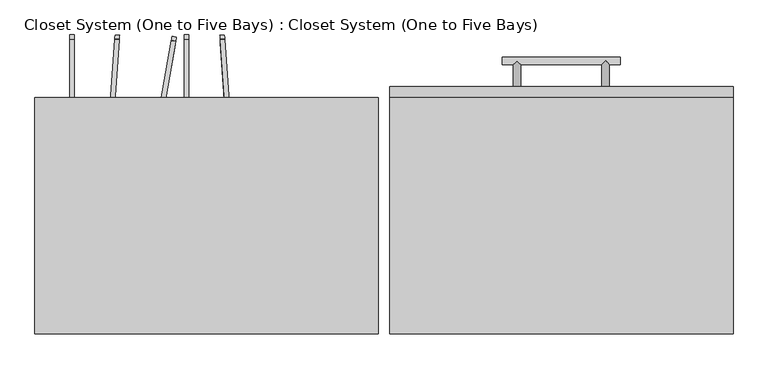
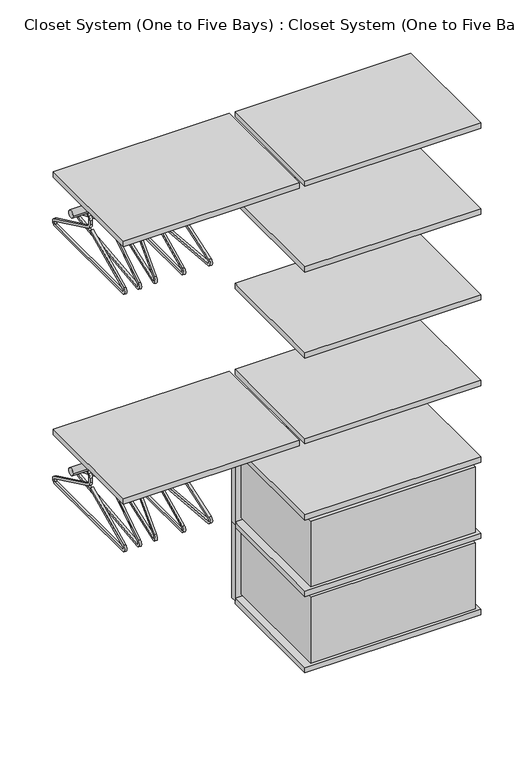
"""IFC4 building model written with IfcOpenShell, lengths in millimetres: furniture geometry, Closet System (One to Five Bays) : Closet System (One to Five Bays)."""

from ifc_helpers import new_model, si_unit, point, frame, frame_2d, origin, place, context, project, spatial, polyline, circle_curve, ellipse_curve, trimmed, segment, composite_curve, outline, extrude, faceted_brep, source, transform, mapped, element, save
from ifc_brep_helpers import plane_surface, cylinder_surface, advanced_brep


def closet_system_one_to_five_bays_closet_system_one_to_five_bbc15d21(model_context):
    return source(origin(), model_context, "Body", "SolidModel", [
        advanced_brep(
        [(1006.475, 425.45, 498.475), (993.775, 425.45, 498.475), (1006.475, 463.55, 498.475), (1000.125, 469.9, 504.825), (993.775, 463.55, 498.475), (1000.125, 469.9, 492.125), (1025.525, 463.55, 498.475), (1025.525, 476.25, 498.475), (822.325, 463.55, 498.475), (822.325, 476.25, 498.475), (841.375, 463.55, 498.475), (847.725, 469.9, 504.825), (854.075, 463.55, 498.475), (847.725, 469.9, 492.125), (841.375, 425.45, 498.475), (854.075, 425.45, 498.475)],
        [
            (0, 1, circle_curve(frame((1000.125, 425.45, 498.475), z_axis=(0.0, -1.0, 0.0), x_axis=(-1.0, 0.0, 0.0)), 6.35)),
            (1, 0, circle_curve(frame((1000.125, 425.45, 498.475), z_axis=(0.0, -1.0, 0.0), x_axis=(-1.0, 0.0, 0.0)), 6.35)),
            (0, 2),
            (2, 3, ellipse_curve(frame((1000.125, 469.9, 498.475), z_axis=(-0.7071067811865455, -0.7071067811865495, 0.0), x_axis=(-0.7071067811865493, 0.7071067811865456, 0.0)), 8.9802561, 6.35)),
            (3, 4, ellipse_curve(frame((1000.125, 469.9, 498.475), z_axis=(0.7071067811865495, -0.7071067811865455, 0.0), x_axis=(0.7071067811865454, 0.7071067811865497, 0.0)), 8.9802561, 6.35)),
            (4, 1),
            (4, 5, ellipse_curve(frame((1000.125, 469.9, 498.475), z_axis=(0.7071067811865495, -0.7071067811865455, 0.0), x_axis=(0.7071067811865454, 0.7071067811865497, 0.0)), 8.9802561, 6.35)),
            (5, 2, ellipse_curve(frame((1000.125, 469.9, 498.475), z_axis=(-0.7071067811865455, -0.7071067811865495, 0.0), x_axis=(-0.7071067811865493, 0.7071067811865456, 0.0)), 8.9802561, 6.35)),
            (6, 7, circle_curve(frame((1025.525, 469.9, 498.475), z_axis=(1.0, 0.0, 0.0), x_axis=(0.0, 1.0, 0.0)), 6.35)),
            (7, 6, circle_curve(frame((1025.525, 469.9, 498.475), z_axis=(1.0, 0.0, 0.0), x_axis=(0.0, 1.0, 0.0)), 6.35)),
            (8, 9, circle_curve(frame((822.325, 469.9, 498.475), z_axis=(-1.0, 0.0, 0.0), x_axis=(0.0, 1.0, 0.0)), 6.35)),
            (9, 8, circle_curve(frame((822.325, 469.9, 498.475), z_axis=(-1.0, 0.0, 0.0), x_axis=(0.0, 1.0, 0.0)), 6.35)),
            (7, 9),
            (8, 10),
            (10, 11, ellipse_curve(frame((847.725, 469.9, 498.475), z_axis=(-0.7071067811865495, 0.7071067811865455, 0.0), x_axis=(0.7071067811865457, 0.7071067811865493, 0.0)), 8.9802561, 6.35)),
            (11, 12, ellipse_curve(frame((847.725, 469.9, 498.475), z_axis=(0.7071067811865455, 0.7071067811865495, 0.0), x_axis=(0.7071067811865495, -0.7071067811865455, 0.0)), 8.9802561, 6.35)),
            (12, 4),
            (2, 6),
            (12, 13, ellipse_curve(frame((847.725, 469.9, 498.475), z_axis=(0.7071067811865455, 0.7071067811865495, 0.0), x_axis=(0.7071067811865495, -0.7071067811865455, 0.0)), 8.9802561, 6.35)),
            (13, 10, ellipse_curve(frame((847.725, 469.9, 498.475), z_axis=(-0.7071067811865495, 0.7071067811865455, 0.0), x_axis=(0.7071067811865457, 0.7071067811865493, 0.0)), 8.9802561, 6.35)),
            (14, 15, circle_curve(frame((847.725, 425.45, 498.475), z_axis=(0.0, -1.0, 0.0), x_axis=(1.0, 0.0, 0.0)), 6.35)),
            (15, 14, circle_curve(frame((847.725, 425.45, 498.475), z_axis=(0.0, -1.0, 0.0), x_axis=(1.0, 0.0, 0.0)), 6.35)),
            (15, 12),
            (10, 14),
        ],
        [
            plane_surface(frame((1000.125, 425.45, 498.475), z_axis=(0.0, -1.0, 0.0), x_axis=(0.0, 0.0, 1.0))),
            cylinder_surface(frame((1000.125, 469.9, 498.475), z_axis=(0.0, 1.0, 0.0), x_axis=(-1.0, 0.0, 0.0)), 6.35),
            plane_surface(frame((1025.525, 469.9, 498.475), z_axis=(1.0, 0.0, 0.0), x_axis=(0.0, 0.0, 1.0))),
            plane_surface(frame((822.325, 469.9, 498.475), z_axis=(-1.0, 0.0, 0.0), x_axis=(0.0, 0.0, 1.0))),
            cylinder_surface(frame((1025.525, 469.9, 498.475), z_axis=(1.0, 0.0, 0.0), x_axis=(0.0, 1.0, 0.0)), 6.35),
            plane_surface(frame((847.725, 425.45, 498.475), z_axis=(0.0, -1.0, 0.0), x_axis=(0.0, 0.0, 1.0))),
            cylinder_surface(frame((847.725, 469.9, 498.475), z_axis=(0.0, 1.0, 0.0), x_axis=(1.0, 0.0, 0.0)), 6.35),
        ],
        [
            (0, [[1, 2]]),
            (1, [[3, 4, 5, 6, -1]]),
            (1, [[-6, 7, 8, -3, -2]]),
            (2, [[9, 10]]),
            (3, [[11, 12]]),
            (4, [[13, -11, 14, 15, 16, 17, -5, -4, 18, -10]]),
            (4, [[-18, -8, -7, -17, 19, 20, -14, -12, -13, -9]]),
            (5, [[21, 22]]),
            (6, [[23, -16, -15, 24, -22]]),
            (6, [[-24, -20, -19, -23, -21]]),
        ],
    ),
        extrude(outline(polyline([(1219.2, 425.45), (1219.2, 406.4), (628.65, 406.4), (628.65, 425.45), (1219.2, 425.45)])), frame((0.0, 0.0, 363.0083333), z_axis=(0.0, 0.0, 1.0), x_axis=(1.0, 0.0, 0.0)), (0.0, 0.0, 1.0), 270.9333333),
        faceted_brep([(1200.15, 0.0, 614.8916667), (1200.15, 406.4, 614.8916667), (647.7, 406.4, 614.8916667), (647.7, 0.0, 614.8916667), (1181.1, 19.05, 614.8916667), (666.75, 19.05, 614.8916667), (666.75, 387.35, 614.8916667), (1181.1, 387.35, 614.8916667), (1200.15, 0.0, 382.0583333), (647.7, 0.0, 382.0583333), (647.7, 406.4, 382.0583333), (1200.15, 406.4, 382.0583333), (1181.1, 387.35, 391.5833333), (1181.1, 19.05, 391.5833333), (666.75, 387.35, 391.5833333), (666.75, 19.05, 391.5833333)], [[[0, 1, 2, 3], [4, 5, 6, 7]], [[8, 9, 10, 11]], [[3, 9, 8, 0]], [[2, 10, 9, 3]], [[1, 11, 10, 2]], [[0, 8, 11, 1]], [[7, 12, 13, 4]], [[6, 14, 12, 7]], [[5, 15, 14, 6]], [[4, 13, 15, 5]], [[12, 14, 15, 13]]]),
        advanced_brep(
        [(1006.475, 425.45, 227.5416667), (993.775, 425.45, 227.5416667), (1006.475, 463.55, 227.5416667), (1000.125, 469.9, 233.8916667), (993.775, 463.55, 227.5416667), (1000.125, 469.9, 221.1916667), (1025.525, 463.55, 227.5416667), (1025.525, 476.25, 227.5416667), (822.325, 463.55, 227.5416667), (822.325, 476.25, 227.5416667), (841.375, 463.55, 227.5416667), (847.725, 469.9, 233.8916667), (854.075, 463.55, 227.5416667), (847.725, 469.9, 221.1916667), (841.375, 425.45, 227.5416667), (854.075, 425.45, 227.5416667)],
        [
            (0, 1, circle_curve(frame((1000.125, 425.45, 227.5416667), z_axis=(0.0, -1.0, 0.0), x_axis=(-1.0, 0.0, 0.0)), 6.35)),
            (1, 0, circle_curve(frame((1000.125, 425.45, 227.5416667), z_axis=(0.0, -1.0, 0.0), x_axis=(-1.0, 0.0, 0.0)), 6.35)),
            (0, 2),
            (2, 3, ellipse_curve(frame((1000.125, 469.9, 227.5416667), z_axis=(-0.7071067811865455, -0.7071067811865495, 0.0), x_axis=(-0.7071067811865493, 0.7071067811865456, 0.0)), 8.9802561, 6.35)),
            (3, 4, ellipse_curve(frame((1000.125, 469.9, 227.5416667), z_axis=(0.7071067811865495, -0.7071067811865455, 0.0), x_axis=(0.7071067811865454, 0.7071067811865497, 0.0)), 8.9802561, 6.35)),
            (4, 1),
            (4, 5, ellipse_curve(frame((1000.125, 469.9, 227.5416667), z_axis=(0.7071067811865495, -0.7071067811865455, 0.0), x_axis=(0.7071067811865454, 0.7071067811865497, 0.0)), 8.9802561, 6.35)),
            (5, 2, ellipse_curve(frame((1000.125, 469.9, 227.5416667), z_axis=(-0.7071067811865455, -0.7071067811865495, 0.0), x_axis=(-0.7071067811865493, 0.7071067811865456, 0.0)), 8.9802561, 6.35)),
            (6, 7, circle_curve(frame((1025.525, 469.9, 227.5416667), z_axis=(1.0, 0.0, 0.0), x_axis=(0.0, 1.0, 0.0)), 6.35)),
            (7, 6, circle_curve(frame((1025.525, 469.9, 227.5416667), z_axis=(1.0, 0.0, 0.0), x_axis=(0.0, 1.0, 0.0)), 6.35)),
            (8, 9, circle_curve(frame((822.325, 469.9, 227.5416667), z_axis=(-1.0, 0.0, 0.0), x_axis=(0.0, 1.0, 0.0)), 6.35)),
            (9, 8, circle_curve(frame((822.325, 469.9, 227.5416667), z_axis=(-1.0, 0.0, 0.0), x_axis=(0.0, 1.0, 0.0)), 6.35)),
            (7, 9),
            (8, 10),
            (10, 11, ellipse_curve(frame((847.725, 469.9, 227.5416667), z_axis=(-0.7071067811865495, 0.7071067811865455, 0.0), x_axis=(0.7071067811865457, 0.7071067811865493, 0.0)), 8.9802561, 6.35)),
            (11, 12, ellipse_curve(frame((847.725, 469.9, 227.5416667), z_axis=(0.7071067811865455, 0.7071067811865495, 0.0), x_axis=(0.7071067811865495, -0.7071067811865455, 0.0)), 8.9802561, 6.35)),
            (12, 4),
            (2, 6),
            (12, 13, ellipse_curve(frame((847.725, 469.9, 227.5416667), z_axis=(0.7071067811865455, 0.7071067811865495, 0.0), x_axis=(0.7071067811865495, -0.7071067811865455, 0.0)), 8.9802561, 6.35)),
            (13, 10, ellipse_curve(frame((847.725, 469.9, 227.5416667), z_axis=(-0.7071067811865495, 0.7071067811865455, 0.0), x_axis=(0.7071067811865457, 0.7071067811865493, 0.0)), 8.9802561, 6.35)),
            (14, 15, circle_curve(frame((847.725, 425.45, 227.5416667), z_axis=(0.0, -1.0, 0.0), x_axis=(1.0, 0.0, 0.0)), 6.35)),
            (15, 14, circle_curve(frame((847.725, 425.45, 227.5416667), z_axis=(0.0, -1.0, 0.0), x_axis=(1.0, 0.0, 0.0)), 6.35)),
            (15, 12),
            (10, 14),
        ],
        [
            plane_surface(frame((1000.125, 425.45, 227.5416667), z_axis=(0.0, -1.0, 0.0), x_axis=(0.0, 0.0, 1.0))),
            cylinder_surface(frame((1000.125, 469.9, 227.5416667), z_axis=(0.0, 1.0, 0.0), x_axis=(-1.0, 0.0, 0.0)), 6.35),
            plane_surface(frame((1025.525, 469.9, 227.5416667), z_axis=(1.0, 0.0, 0.0), x_axis=(0.0, 0.0, 1.0))),
            plane_surface(frame((822.325, 469.9, 227.5416667), z_axis=(-1.0, 0.0, 0.0), x_axis=(0.0, 0.0, 1.0))),
            cylinder_surface(frame((1025.525, 469.9, 227.5416667), z_axis=(1.0, 0.0, 0.0), x_axis=(0.0, 1.0, 0.0)), 6.35),
            plane_surface(frame((847.725, 425.45, 227.5416667), z_axis=(0.0, -1.0, 0.0), x_axis=(0.0, 0.0, 1.0))),
            cylinder_surface(frame((847.725, 469.9, 227.5416667), z_axis=(0.0, 1.0, 0.0), x_axis=(1.0, 0.0, 0.0)), 6.35),
        ],
        [
            (0, [[1, 2]]),
            (1, [[3, 4, 5, 6, -1]]),
            (1, [[-6, 7, 8, -3, -2]]),
            (2, [[9, 10]]),
            (3, [[11, 12]]),
            (4, [[13, -11, 14, 15, 16, 17, -5, -4, 18, -10]]),
            (4, [[-18, -8, -7, -17, 19, 20, -14, -12, -13, -9]]),
            (5, [[21, 22]]),
            (6, [[23, -16, -15, 24, -22]]),
            (6, [[-24, -20, -19, -23, -21]]),
        ],
    ),
        extrude(outline(polyline([(1219.2, 425.45), (1219.2, 406.4), (628.65, 406.4), (628.65, 425.45), (1219.2, 425.45)])), frame((0.0, 0.0, 92.075), z_axis=(0.0, 0.0, 1.0), x_axis=(1.0, 0.0, 0.0)), (0.0, 0.0, 1.0), 270.9333333),
        faceted_brep([(1200.15, 0.0, 343.9583333), (1200.15, 406.4, 343.9583333), (647.7, 406.4, 343.9583333), (647.7, 0.0, 343.9583333), (1181.1, 19.05, 343.9583333), (666.75, 19.05, 343.9583333), (666.75, 387.35, 343.9583333), (1181.1, 387.35, 343.9583333), (1200.15, 0.0, 111.125), (647.7, 0.0, 111.125), (647.7, 406.4, 111.125), (1200.15, 406.4, 111.125), (1181.1, 387.35, 120.65), (1181.1, 19.05, 120.65), (666.75, 387.35, 120.65), (666.75, 19.05, 120.65)], [[[0, 1, 2, 3], [4, 5, 6, 7]], [[8, 9, 10, 11]], [[3, 9, 8, 0]], [[2, 10, 9, 3]], [[1, 11, 10, 2]], [[0, 8, 11, 1]], [[7, 12, 13, 4]], [[6, 14, 12, 7]], [[5, 15, 14, 6]], [[4, 13, 15, 5]], [[12, 14, 15, 13]]]),
        faceted_brep([(628.65, 406.4, 1200.15), (628.65, 387.35, 1200.15), (628.65, 0.0, 1200.15), (628.65, 0.0, 1219.2), (628.65, 387.35, 1219.2), (628.65, 406.4, 1219.2), (1219.2, 0.0, 1200.15), (1219.2, 387.35, 1200.15), (1219.2, 406.4, 1200.15), (1219.2, 406.4, 1219.2), (1219.2, 387.35, 1219.2), (1219.2, 0.0, 1219.2)], [[[0, 1, 2, 3, 4, 5]], [[6, 7, 8, 9, 10, 11]], [[2, 1, 0, 8, 7, 6]], [[5, 9, 8, 0]], [[5, 4, 3, 11, 10, 9]], [[2, 6, 11, 3]]]),
        faceted_brep([(628.65, 406.4, 1504.95), (628.65, 387.35, 1504.95), (628.65, 0.0, 1504.95), (628.65, 0.0, 1524.0), (628.65, 387.35, 1524.0), (628.65, 406.4, 1524.0), (1219.2, 0.0, 1504.95), (1219.2, 387.35, 1504.95), (1219.2, 406.4, 1504.95), (1219.2, 406.4, 1524.0), (1219.2, 387.35, 1524.0), (1219.2, 0.0, 1524.0)], [[[0, 1, 2, 3, 4, 5]], [[6, 7, 8, 9, 10, 11]], [[2, 1, 0, 8, 7, 6]], [[5, 9, 8, 0]], [[5, 4, 3, 11, 10, 9]], [[2, 6, 11, 3]]]),
        faceted_brep([(628.65, 406.4, 624.4166667), (628.65, 387.35, 624.4166667), (628.65, 0.0, 624.4166667), (628.65, 0.0, 643.4666667), (628.65, 387.35, 643.4666667), (628.65, 406.4, 643.4666667), (1219.2, 0.0, 624.4166667), (1219.2, 387.35, 624.4166667), (1219.2, 406.4, 624.4166667), (1219.2, 406.4, 643.4666667), (1219.2, 387.35, 643.4666667), (1219.2, 0.0, 643.4666667)], [[[0, 1, 2, 3, 4, 5]], [[6, 7, 8, 9, 10, 11]], [[2, 1, 0, 8, 7, 6]], [[5, 9, 8, 0]], [[5, 4, 3, 11, 10, 9]], [[2, 6, 11, 3]]]),
        faceted_brep([(628.65, 406.4, 353.4833333), (628.65, 387.35, 353.4833333), (628.65, 0.0, 353.4833333), (628.65, 0.0, 372.5333333), (628.65, 387.35, 372.5333333), (628.65, 406.4, 372.5333333), (1219.2, 0.0, 353.4833333), (1219.2, 387.35, 353.4833333), (1219.2, 406.4, 353.4833333), (1219.2, 406.4, 372.5333333), (1219.2, 387.35, 372.5333333), (1219.2, 0.0, 372.5333333)], [[[0, 1, 2, 3, 4, 5]], [[6, 7, 8, 9, 10, 11]], [[2, 1, 0, 8, 7, 6]], [[5, 9, 8, 0]], [[5, 4, 3, 11, 10, 9]], [[2, 6, 11, 3]]]),
        faceted_brep([(628.65, 406.4, 82.55), (628.65, 387.35, 82.55), (628.65, 0.0, 82.55), (628.65, 0.0, 101.6), (628.65, 387.35, 101.6), (628.65, 406.4, 101.6), (1219.2, 0.0, 82.55), (1219.2, 387.35, 82.55), (1219.2, 406.4, 82.55), (1219.2, 406.4, 101.6), (1219.2, 387.35, 101.6), (1219.2, 0.0, 101.6)], [[[0, 1, 2, 3, 4, 5]], [[6, 7, 8, 9, 10, 11]], [[2, 1, 0, 8, 7, 6]], [[5, 9, 8, 0]], [[5, 4, 3, 11, 10, 9]], [[2, 6, 11, 3]]]),
        extrude(outline(polyline([(1219.2, 406.4), (1219.2, 0.0), (628.65, 0.0), (628.65, 406.4), (1219.2, 406.4)])), frame((0.0, 0.0, 895.35), z_axis=(0.0, 0.0, 1.0), x_axis=(1.0, 0.0, 0.0)), (0.0, 0.0, 1.0), 19.05),
        extrude(outline(polyline([(1219.2, 406.4), (1219.2, 0.0), (628.65, 0.0), (628.65, 406.4), (1219.2, 406.4)])), frame((0.0, 0.0, 1809.75), z_axis=(0.0, 0.0, 1.0), x_axis=(1.0, 0.0, 0.0)), (0.0, 0.0, 1.0), 19.05),
        extrude(outline(composite_curve([segment(polyline([(0.0, 7.62), (209.55, 7.62)]), True, "CONTINUOUS"), segment(trimmed(circle_curve(frame_2d((209.55, -5.08)), 12.7), [point((209.55, 7.62))], [point((215.0168758, -16.5431265))], False, "CARTESIAN"), True, "CONTINUOUS"), segment(polyline([(215.0168758, -16.5431265), (-140.3400452, -186.0162767)]), True, "CONTINUOUS"), segment(trimmed(circle_curve(frame_2d((-145.806921, -174.5531502)), 12.7), [point((-140.3400452, -186.0162767))], [point((-155.675817, -166.559722))], False, "CARTESIAN"), True, "CONTINUOUS"), segment(polyline([(-155.675817, -166.559722), (-19.6406824, 1.3928203)]), True, "CONTINUOUS"), segment(trimmed(circle_curve(frame_2d((-29.5095783, 9.3862485)), 12.7), [point((-19.6406824, 1.3928203))], [point((-18.0464518, 14.8531243))], True, "CARTESIAN"), True, "CONTINUOUS"), segment(polyline([(-18.0464518, 14.8531243), (-24.2041701, 27.7648322)]), True, "CONTINUOUS"), segment(trimmed(circle_curve(frame_2d((-35.6672966, 22.2979563)), 12.7), [point((-24.2041701, 27.7648322))], [point((-31.4273071, 34.2692757))], True, "CARTESIAN"), True, "CONTINUOUS"), segment(polyline([(-31.4273071, 34.2692757), (-50.411263, 40.9929937)]), True, "CONTINUOUS"), segment(trimmed(circle_curve(frame_2d((-41.931284, 64.9356325)), 25.4), [point((-50.411263, 40.9929937))], [point((-19.005031, 75.8693841))], False, "CARTESIAN"), True, "CONTINUOUS"), segment(polyline([(-19.005031, 75.8693841), (-25.882907, 72.5892586)]), True, "CONTINUOUS"), segment(trimmed(circle_curve(frame_2d((-41.931284, 64.9356325)), 17.78), [point((-25.882907, 72.5892586))], [point((-47.8672693, 48.1757852))], True, "CARTESIAN"), True, "CONTINUOUS"), segment(polyline([(-47.8672693, 48.1757852), (-28.8833133, 41.4520674)]), True, "CONTINUOUS"), segment(trimmed(circle_curve(frame_2d((-35.6672966, 22.2979563)), 20.32), [point((-28.8833133, 41.4520674))], [point((-17.3262942, 31.0449576))], False, "CARTESIAN"), True, "CONTINUOUS"), segment(polyline([(-17.3262942, 31.0449576), (-11.1685759, 18.1332497)]), True, "CONTINUOUS"), segment(trimmed(circle_curve(frame_2d((-29.5095783, 9.3862485)), 20.32), [point((-11.1685759, 18.1332497))], [point((-13.7193449, -3.4032366))], False, "CARTESIAN"), True, "CONTINUOUS"), segment(polyline([(-13.7193449, -3.4032366), (-149.7544794, -171.3557789)]), True, "CONTINUOUS"), segment(trimmed(circle_curve(frame_2d((-145.806921, -174.5531502)), 5.08), [point((-149.7544794, -171.3557789))], [point((-143.6201707, -179.1384008))], True, "CARTESIAN"), True, "CONTINUOUS"), segment(polyline([(-143.6201707, -179.1384008), (211.7367503, -9.6652506)]), True, "CONTINUOUS"), segment(trimmed(circle_curve(frame_2d((209.55, -5.08)), 5.08), [point((211.7367503, -9.6652506))], [point((209.55, 0.0))], True, "CARTESIAN"), True, "CONTINUOUS"), segment(polyline([(209.55, 0.0), (0.0, 0.0), (0.0, 7.62)]), True, "CONTINUOUS")], self_intersect=False)), frame((224.2838405, 294.3935669, 1663.2387015), z_axis=(-0.9848077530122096, 0.17364817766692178, 0.0), x_axis=(-0.15673630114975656, -0.8888957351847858, -0.4304626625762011)), (0.0, 0.0, 1.0), 7.62),
        extrude(outline(composite_curve([segment(polyline([(1e-07, 7.62), (209.55, 7.6199999)]), True, "CONTINUOUS"), segment(trimmed(circle_curve(frame_2d((209.55, 12.6999999)), 5.08), [point((209.55, 7.6199999))], [point((211.7367504, 17.2852505))], True, "CARTESIAN"), True, "CONTINUOUS"), segment(polyline([(211.7367504, 17.2852505), (-143.6201707, 186.7584008)]), True, "CONTINUOUS"), segment(trimmed(circle_curve(frame_2d((-145.806921, 182.1731502)), 5.08), [point((-143.6201707, 186.7584008))], [point((-149.7544794, 178.9757789))], True, "CARTESIAN"), True, "CONTINUOUS"), segment(polyline([(-149.7544794, 178.9757789), (-13.7193448, 11.0232366)]), True, "CONTINUOUS"), segment(trimmed(circle_curve(frame_2d((-29.5095783, -1.7662484)), 20.32), [point((-13.7193448, 11.0232366))], [point((-11.1685759, -10.5132497))], False, "CARTESIAN"), True, "CONTINUOUS"), segment(polyline([(-11.1685759, -10.5132497), (-17.3262942, -23.4249576)]), True, "CONTINUOUS"), segment(trimmed(circle_curve(frame_2d((-35.6672966, -14.6779563)), 20.32), [point((-17.3262942, -23.4249576))], [point((-28.8833133, -33.8320674))], False, "CARTESIAN"), True, "CONTINUOUS"), segment(polyline([(-28.8833133, -33.8320674), (-47.8672693, -40.5557852)]), True, "CONTINUOUS"), segment(trimmed(circle_curve(frame_2d((-41.931284, -57.3156325)), 17.78), [point((-47.8672693, -40.5557852))], [point((-25.8829069, -64.9692586))], True, "CARTESIAN"), True, "CONTINUOUS"), segment(polyline([(-25.8829069, -64.9692586), (-19.0050311, -68.2493841)]), True, "CONTINUOUS"), segment(trimmed(circle_curve(frame_2d((-41.931284, -57.3156325)), 25.4), [point((-19.0050311, -68.2493841))], [point((-50.4112631, -33.3729936))], False, "CARTESIAN"), True, "CONTINUOUS"), segment(polyline([(-50.4112631, -33.3729936), (-31.427307, -26.6492757)]), True, "CONTINUOUS"), segment(trimmed(circle_curve(frame_2d((-35.6672966, -14.6779563)), 12.7), [point((-31.427307, -26.6492757))], [point((-24.20417, -20.1448322))], True, "CARTESIAN"), True, "CONTINUOUS"), segment(polyline([(-24.20417, -20.1448322), (-18.0464518, -7.2331243)]), True, "CONTINUOUS"), segment(trimmed(circle_curve(frame_2d((-29.5095783, -1.7662484)), 12.7), [point((-18.0464518, -7.2331243))], [point((-19.6406824, 6.2271797))], True, "CARTESIAN"), True, "CONTINUOUS"), segment(polyline([(-19.6406824, 6.2271797), (-155.6758169, 174.179722)]), True, "CONTINUOUS"), segment(trimmed(circle_curve(frame_2d((-145.806921, 182.1731502)), 12.7), [point((-155.6758169, 174.179722))], [point((-140.3400452, 193.6362767))], False, "CARTESIAN"), True, "CONTINUOUS"), segment(polyline([(-140.3400452, 193.6362767), (215.0168759, 24.1631264)]), True, "CONTINUOUS"), segment(trimmed(circle_curve(frame_2d((209.55, 12.6999999)), 12.7), [point((215.0168759, 24.1631264))], [point((209.55, 0.0))], False, "CARTESIAN"), True, "CONTINUOUS"), segment(polyline([(209.55, 0.0), (0.0, 0.0), (1e-07, 7.62)]), True, "CONTINUOUS")], self_intersect=False)), frame((352.7183427, 291.3910334, 1670.1165774), z_axis=(0.9975640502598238, 0.0697564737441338, 0.0), x_axis=(0.06296277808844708, -0.9004096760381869, -0.4304626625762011)), (0.0, 0.0, 1.0), 7.62),
        extrude(outline(composite_curve([segment(polyline([(-1e-07, 7.62), (209.5499999, 7.62)]), True, "CONTINUOUS"), segment(trimmed(circle_curve(frame_2d((209.55, -5.08)), 12.7), [point((209.5499999, 7.62))], [point((215.0168758, -16.5431265))], False, "CARTESIAN"), True, "CONTINUOUS"), segment(polyline([(215.0168758, -16.5431265), (-140.3400453, -186.0162767)]), True, "CONTINUOUS"), segment(trimmed(circle_curve(frame_2d((-145.8069211, -174.5531502)), 12.7), [point((-140.3400453, -186.0162767))], [point((-155.675817, -166.5597221))], False, "CARTESIAN"), True, "CONTINUOUS"), segment(polyline([(-155.675817, -166.5597221), (-19.6406825, 1.3928202)]), True, "CONTINUOUS"), segment(trimmed(circle_curve(frame_2d((-29.5095784, 9.3862484)), 12.7), [point((-19.6406825, 1.3928202))], [point((-18.0464518, 14.8531243))], True, "CARTESIAN"), True, "CONTINUOUS"), segment(polyline([(-18.0464518, 14.8531243), (-24.2041701, 27.7648321)]), True, "CONTINUOUS"), segment(trimmed(circle_curve(frame_2d((-35.6672967, 22.2979563)), 12.7), [point((-24.2041701, 27.7648321))], [point((-31.4273071, 34.2692757))], True, "CARTESIAN"), True, "CONTINUOUS"), segment(polyline([(-31.4273071, 34.2692757), (-50.4112631, 40.9929936)]), True, "CONTINUOUS"), segment(trimmed(circle_curve(frame_2d((-41.931284, 64.9356325)), 25.4), [point((-50.4112631, 40.9929936))], [point((-19.0050311, 75.8693841))], False, "CARTESIAN"), True, "CONTINUOUS"), segment(polyline([(-19.0050311, 75.8693841), (-25.882907, 72.5892586)]), True, "CONTINUOUS"), segment(trimmed(circle_curve(frame_2d((-41.931284, 64.9356325)), 17.78), [point((-25.882907, 72.5892586))], [point((-47.8672694, 48.1757852))], True, "CARTESIAN"), True, "CONTINUOUS"), segment(polyline([(-47.8672694, 48.1757852), (-28.8833134, 41.4520674)]), True, "CONTINUOUS"), segment(trimmed(circle_curve(frame_2d((-35.6672967, 22.2979563)), 20.32), [point((-28.8833134, 41.4520674))], [point((-17.3262943, 31.0449576))], False, "CARTESIAN"), True, "CONTINUOUS"), segment(polyline([(-17.3262943, 31.0449576), (-11.168576, 18.1332497)]), True, "CONTINUOUS"), segment(trimmed(circle_curve(frame_2d((-29.5095784, 9.3862484)), 20.32), [point((-11.168576, 18.1332497))], [point((-13.7193449, -3.4032366))], False, "CARTESIAN"), True, "CONTINUOUS"), segment(polyline([(-13.7193449, -3.4032366), (-149.7544794, -171.355779)]), True, "CONTINUOUS"), segment(trimmed(circle_curve(frame_2d((-145.8069211, -174.5531502)), 5.08), [point((-149.7544794, -171.355779))], [point((-143.6201708, -179.1384008))], True, "CARTESIAN"), True, "CONTINUOUS"), segment(polyline([(-143.6201708, -179.1384008), (211.7367503, -9.6652506)]), True, "CONTINUOUS"), segment(trimmed(circle_curve(frame_2d((209.55, -5.08)), 5.08), [point((211.7367503, -9.6652506))], [point((209.55, 0.0))], True, "CARTESIAN"), True, "CONTINUOUS"), segment(polyline([(209.55, 0.0), (0.0, 0.0), (-1e-07, 7.62)]), True, "CONTINUOUS")], self_intersect=False)), frame((149.1604673, 294.6631686, 1663.2387015), z_axis=(-0.9975640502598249, 0.0697564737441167, 0.0), x_axis=(-0.06296277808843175, -0.900409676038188, -0.4304626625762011)), (0.0, 0.0, 1.0), 7.62),
        extrude(outline(composite_curve([segment(polyline([(294.9048367, 1663.2387015), (105.7632497, 1573.0352506)]), True, "CONTINUOUS"), segment(trimmed(circle_curve(frame_2d((107.95, 1568.45)), 5.08), [point((105.7632497, 1573.0352506))], [point((107.95, 1563.37))], True, "CARTESIAN"), True, "CONTINUOUS"), segment(polyline([(107.95, 1563.37), (501.65, 1563.37)]), True, "CONTINUOUS"), segment(trimmed(circle_curve(frame_2d((501.65, 1568.45)), 5.08), [point((501.65, 1563.37))], [point((503.8367503, 1573.0352506))], True, "CARTESIAN"), True, "CONTINUOUS"), segment(polyline([(503.8367503, 1573.0352506), (308.7529987, 1666.0725773)]), True, "CONTINUOUS"), segment(trimmed(circle_curve(frame_2d((317.5, 1684.4135797)), 20.32), [point((308.7529987, 1666.0725773))], [point((297.18, 1684.4135797))], False, "CARTESIAN"), True, "CONTINUOUS"), segment(polyline([(297.18, 1684.4135797), (297.18, 1698.7184633)]), True, "CONTINUOUS"), segment(trimmed(circle_curve(frame_2d((317.5, 1698.7184633)), 20.32), [point((297.18, 1698.7184633))], [point((303.1315902, 1713.0868731))], False, "CARTESIAN"), True, "CONTINUOUS"), segment(polyline([(303.1315902, 1713.0868731), (317.3723586, 1727.3276414)]), True, "CONTINUOUS"), segment(trimmed(circle_curve(frame_2d((304.8, 1739.9)), 17.78), [point((317.3723586, 1727.3276414))], [point((287.02, 1739.9))], True, "CARTESIAN"), True, "CONTINUOUS"), segment(polyline([(287.02, 1739.9), (279.4, 1739.9)]), True, "CONTINUOUS"), segment(trimmed(circle_curve(frame_2d((304.8, 1739.9)), 25.4), [point((279.4, 1739.9))], [point((322.7605122, 1721.9394878))], False, "CARTESIAN"), True, "CONTINUOUS"), segment(polyline([(322.7605122, 1721.9394878), (308.5197439, 1707.6987194)]), True, "CONTINUOUS"), segment(trimmed(circle_curve(frame_2d((317.5, 1698.7184633)), 12.7), [point((308.5197439, 1707.6987194))], [point((304.8, 1698.7184633))], True, "CARTESIAN"), True, "CONTINUOUS"), segment(polyline([(304.8, 1698.7184633), (304.8, 1684.4135797)]), True, "CONTINUOUS"), segment(trimmed(circle_curve(frame_2d((317.5, 1684.4135797)), 12.7), [point((304.8, 1684.4135797))], [point((312.0331242, 1672.9504532))], True, "CARTESIAN"), True, "CONTINUOUS"), segment(polyline([(312.0331242, 1672.9504532), (507.1168758, 1579.9131265)]), True, "CONTINUOUS"), segment(trimmed(circle_curve(frame_2d((501.65, 1568.45)), 12.7), [point((507.1168758, 1579.9131265))], [point((501.65, 1555.75))], False, "CARTESIAN"), True, "CONTINUOUS"), segment(polyline([(501.65, 1555.75), (107.95, 1555.75)]), True, "CONTINUOUS"), segment(trimmed(circle_curve(frame_2d((107.95, 1568.45)), 12.7), [point((107.95, 1555.75))], [point((102.4831242, 1579.9131265))], False, "CARTESIAN"), True, "CONTINUOUS"), segment(polyline([(102.4831242, 1579.9131265), (291.6247112, 1670.1165774), (294.9048367, 1663.2387015)]), True, "CONTINUOUS")], self_intersect=False)), frame((275.59, 0.0, 0.0), z_axis=(1.0, 0.0, 0.0), x_axis=(0.0, 1.0, 0.0)), (0.0, 0.0, 1.0), 7.62),
        extrude(outline(composite_curve([segment(polyline([(294.9048367, 1663.2387015), (105.7632497, 1573.0352506)]), True, "CONTINUOUS"), segment(trimmed(circle_curve(frame_2d((107.95, 1568.45)), 5.08), [point((105.7632497, 1573.0352506))], [point((107.95, 1563.37))], True, "CARTESIAN"), True, "CONTINUOUS"), segment(polyline([(107.95, 1563.37), (501.65, 1563.37)]), True, "CONTINUOUS"), segment(trimmed(circle_curve(frame_2d((501.65, 1568.45)), 5.08), [point((501.65, 1563.37))], [point((503.8367503, 1573.0352506))], True, "CARTESIAN"), True, "CONTINUOUS"), segment(polyline([(503.8367503, 1573.0352506), (308.7529987, 1666.0725773)]), True, "CONTINUOUS"), segment(trimmed(circle_curve(frame_2d((317.5, 1684.4135797)), 20.32), [point((308.7529987, 1666.0725773))], [point((297.18, 1684.4135797))], False, "CARTESIAN"), True, "CONTINUOUS"), segment(polyline([(297.18, 1684.4135797), (297.18, 1698.7184633)]), True, "CONTINUOUS"), segment(trimmed(circle_curve(frame_2d((317.5, 1698.7184633)), 20.32), [point((297.18, 1698.7184633))], [point((303.1315902, 1713.0868731))], False, "CARTESIAN"), True, "CONTINUOUS"), segment(polyline([(303.1315902, 1713.0868731), (317.3723586, 1727.3276414)]), True, "CONTINUOUS"), segment(trimmed(circle_curve(frame_2d((304.8, 1739.9)), 17.78), [point((317.3723586, 1727.3276414))], [point((287.02, 1739.9))], True, "CARTESIAN"), True, "CONTINUOUS"), segment(polyline([(287.02, 1739.9), (279.4, 1739.9)]), True, "CONTINUOUS"), segment(trimmed(circle_curve(frame_2d((304.8, 1739.9)), 25.4), [point((279.4, 1739.9))], [point((322.7605122, 1721.9394878))], False, "CARTESIAN"), True, "CONTINUOUS"), segment(polyline([(322.7605122, 1721.9394878), (308.5197439, 1707.6987194)]), True, "CONTINUOUS"), segment(trimmed(circle_curve(frame_2d((317.5, 1698.7184633)), 12.7), [point((308.5197439, 1707.6987194))], [point((304.8, 1698.7184633))], True, "CARTESIAN"), True, "CONTINUOUS"), segment(polyline([(304.8, 1698.7184633), (304.8, 1684.4135797)]), True, "CONTINUOUS"), segment(trimmed(circle_curve(frame_2d((317.5, 1684.4135797)), 12.7), [point((304.8, 1684.4135797))], [point((312.0331242, 1672.9504532))], True, "CARTESIAN"), True, "CONTINUOUS"), segment(polyline([(312.0331242, 1672.9504532), (507.1168758, 1579.9131265)]), True, "CONTINUOUS"), segment(trimmed(circle_curve(frame_2d((501.65, 1568.45)), 12.7), [point((507.1168758, 1579.9131265))], [point((501.65, 1555.75))], False, "CARTESIAN"), True, "CONTINUOUS"), segment(polyline([(501.65, 1555.75), (107.95, 1555.75)]), True, "CONTINUOUS"), segment(trimmed(circle_curve(frame_2d((107.95, 1568.45)), 12.7), [point((107.95, 1555.75))], [point((102.4831242, 1579.9131265))], False, "CARTESIAN"), True, "CONTINUOUS"), segment(polyline([(102.4831242, 1579.9131265), (291.6247112, 1670.1165774), (294.9048367, 1663.2387015)]), True, "CONTINUOUS")], self_intersect=False)), frame((78.74, 0.0, 0.0), z_axis=(1.0, 0.0, 0.0), x_axis=(0.0, 1.0, 0.0)), (0.0, 0.0, 1.0), 7.62),
        extrude(outline(composite_curve([segment(trimmed(circle_curve(frame_2d((304.8, 1739.9)), 12.7), [point((317.5, 1739.9))], [point((292.1, 1739.9))], False, "CARTESIAN"), True, "CONTINUOUS"), segment(trimmed(circle_curve(frame_2d((304.8, 1739.9)), 12.7), [point((292.1, 1739.9))], [point((317.5, 1739.9))], False, "CARTESIAN"), True, "CONTINUOUS")], self_intersect=False)), frame((19.05, 0.0, 0.0), z_axis=(1.0, 0.0, 0.0), x_axis=(0.0, 1.0, 0.0)), (0.0, 0.0, 1.0), 590.55),
        extrude(outline(composite_curve([segment(polyline([(0.0, 7.62), (209.55, 7.62)]), True, "CONTINUOUS"), segment(trimmed(circle_curve(frame_2d((209.55, -5.08)), 12.7), [point((209.55, 7.62))], [point((215.0168758, -16.5431265))], False, "CARTESIAN"), True, "CONTINUOUS"), segment(polyline([(215.0168758, -16.5431265), (-140.3400452, -186.0162767)]), True, "CONTINUOUS"), segment(trimmed(circle_curve(frame_2d((-145.806921, -174.5531502)), 12.7), [point((-140.3400452, -186.0162767))], [point((-155.675817, -166.559722))], False, "CARTESIAN"), True, "CONTINUOUS"), segment(polyline([(-155.675817, -166.559722), (-19.6406824, 1.3928203)]), True, "CONTINUOUS"), segment(trimmed(circle_curve(frame_2d((-29.5095783, 9.3862485)), 12.7), [point((-19.6406824, 1.3928203))], [point((-18.0464518, 14.8531243))], True, "CARTESIAN"), True, "CONTINUOUS"), segment(polyline([(-18.0464518, 14.8531243), (-24.2041701, 27.7648322)]), True, "CONTINUOUS"), segment(trimmed(circle_curve(frame_2d((-35.6672966, 22.2979563)), 12.7), [point((-24.2041701, 27.7648322))], [point((-31.4273071, 34.2692757))], True, "CARTESIAN"), True, "CONTINUOUS"), segment(polyline([(-31.4273071, 34.2692757), (-50.411263, 40.9929937)]), True, "CONTINUOUS"), segment(trimmed(circle_curve(frame_2d((-41.931284, 64.9356325)), 25.4), [point((-50.411263, 40.9929937))], [point((-19.005031, 75.8693841))], False, "CARTESIAN"), True, "CONTINUOUS"), segment(polyline([(-19.005031, 75.8693841), (-25.882907, 72.5892586)]), True, "CONTINUOUS"), segment(trimmed(circle_curve(frame_2d((-41.931284, 64.9356325)), 17.78), [point((-25.882907, 72.5892586))], [point((-47.8672693, 48.1757852))], True, "CARTESIAN"), True, "CONTINUOUS"), segment(polyline([(-47.8672693, 48.1757852), (-28.8833133, 41.4520674)]), True, "CONTINUOUS"), segment(trimmed(circle_curve(frame_2d((-35.6672966, 22.2979563)), 20.32), [point((-28.8833133, 41.4520674))], [point((-17.3262942, 31.0449576))], False, "CARTESIAN"), True, "CONTINUOUS"), segment(polyline([(-17.3262942, 31.0449576), (-11.1685759, 18.1332497)]), True, "CONTINUOUS"), segment(trimmed(circle_curve(frame_2d((-29.5095783, 9.3862485)), 20.32), [point((-11.1685759, 18.1332497))], [point((-13.7193449, -3.4032366))], False, "CARTESIAN"), True, "CONTINUOUS"), segment(polyline([(-13.7193449, -3.4032366), (-149.7544794, -171.3557789)]), True, "CONTINUOUS"), segment(trimmed(circle_curve(frame_2d((-145.806921, -174.5531502)), 5.08), [point((-149.7544794, -171.3557789))], [point((-143.6201707, -179.1384008))], True, "CARTESIAN"), True, "CONTINUOUS"), segment(polyline([(-143.6201707, -179.1384008), (211.7367503, -9.6652506)]), True, "CONTINUOUS"), segment(trimmed(circle_curve(frame_2d((209.55, -5.08)), 5.08), [point((211.7367503, -9.6652506))], [point((209.55, 0.0))], True, "CARTESIAN"), True, "CONTINUOUS"), segment(polyline([(209.55, 0.0), (0.0, 0.0), (0.0, 7.62)]), True, "CONTINUOUS")], self_intersect=False)), frame((224.2838405, 294.3935669, 748.8387015), z_axis=(-0.9848077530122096, 0.17364817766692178, 0.0), x_axis=(-0.15673630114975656, -0.8888957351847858, -0.4304626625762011)), (0.0, 0.0, 1.0), 7.62),
        extrude(outline(composite_curve([segment(polyline([(1e-07, 7.62), (209.55, 7.6199999)]), True, "CONTINUOUS"), segment(trimmed(circle_curve(frame_2d((209.55, 12.6999999)), 5.08), [point((209.55, 7.6199999))], [point((211.7367504, 17.2852505))], True, "CARTESIAN"), True, "CONTINUOUS"), segment(polyline([(211.7367504, 17.2852505), (-143.6201707, 186.7584008)]), True, "CONTINUOUS"), segment(trimmed(circle_curve(frame_2d((-145.806921, 182.1731502)), 5.08), [point((-143.6201707, 186.7584008))], [point((-149.7544794, 178.9757789))], True, "CARTESIAN"), True, "CONTINUOUS"), segment(polyline([(-149.7544794, 178.9757789), (-13.7193448, 11.0232366)]), True, "CONTINUOUS"), segment(trimmed(circle_curve(frame_2d((-29.5095783, -1.7662484)), 20.32), [point((-13.7193448, 11.0232366))], [point((-11.1685759, -10.5132497))], False, "CARTESIAN"), True, "CONTINUOUS"), segment(polyline([(-11.1685759, -10.5132497), (-17.3262942, -23.4249576)]), True, "CONTINUOUS"), segment(trimmed(circle_curve(frame_2d((-35.6672966, -14.6779563)), 20.32), [point((-17.3262942, -23.4249576))], [point((-28.8833133, -33.8320674))], False, "CARTESIAN"), True, "CONTINUOUS"), segment(polyline([(-28.8833133, -33.8320674), (-47.8672693, -40.5557852)]), True, "CONTINUOUS"), segment(trimmed(circle_curve(frame_2d((-41.931284, -57.3156325)), 17.78), [point((-47.8672693, -40.5557852))], [point((-25.8829069, -64.9692586))], True, "CARTESIAN"), True, "CONTINUOUS"), segment(polyline([(-25.8829069, -64.9692586), (-19.0050311, -68.2493841)]), True, "CONTINUOUS"), segment(trimmed(circle_curve(frame_2d((-41.931284, -57.3156325)), 25.4), [point((-19.0050311, -68.2493841))], [point((-50.4112631, -33.3729936))], False, "CARTESIAN"), True, "CONTINUOUS"), segment(polyline([(-50.4112631, -33.3729936), (-31.427307, -26.6492757)]), True, "CONTINUOUS"), segment(trimmed(circle_curve(frame_2d((-35.6672966, -14.6779563)), 12.7), [point((-31.427307, -26.6492757))], [point((-24.20417, -20.1448322))], True, "CARTESIAN"), True, "CONTINUOUS"), segment(polyline([(-24.20417, -20.1448322), (-18.0464518, -7.2331243)]), True, "CONTINUOUS"), segment(trimmed(circle_curve(frame_2d((-29.5095783, -1.7662484)), 12.7), [point((-18.0464518, -7.2331243))], [point((-19.6406824, 6.2271797))], True, "CARTESIAN"), True, "CONTINUOUS"), segment(polyline([(-19.6406824, 6.2271797), (-155.6758169, 174.179722)]), True, "CONTINUOUS"), segment(trimmed(circle_curve(frame_2d((-145.806921, 182.1731502)), 12.7), [point((-155.6758169, 174.179722))], [point((-140.3400452, 193.6362767))], False, "CARTESIAN"), True, "CONTINUOUS"), segment(polyline([(-140.3400452, 193.6362767), (215.0168759, 24.1631264)]), True, "CONTINUOUS"), segment(trimmed(circle_curve(frame_2d((209.55, 12.6999999)), 12.7), [point((215.0168759, 24.1631264))], [point((209.55, 0.0))], False, "CARTESIAN"), True, "CONTINUOUS"), segment(polyline([(209.55, 0.0), (0.0, 0.0), (1e-07, 7.62)]), True, "CONTINUOUS")], self_intersect=False)), frame((352.7183427, 291.3910334, 755.7165774), z_axis=(0.9975640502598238, 0.0697564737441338, 0.0), x_axis=(0.06296277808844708, -0.9004096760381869, -0.4304626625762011)), (0.0, 0.0, 1.0), 7.62),
        extrude(outline(composite_curve([segment(polyline([(-1e-07, 7.62), (209.5499999, 7.62)]), True, "CONTINUOUS"), segment(trimmed(circle_curve(frame_2d((209.55, -5.08)), 12.7), [point((209.5499999, 7.62))], [point((215.0168758, -16.5431265))], False, "CARTESIAN"), True, "CONTINUOUS"), segment(polyline([(215.0168758, -16.5431265), (-140.3400453, -186.0162767)]), True, "CONTINUOUS"), segment(trimmed(circle_curve(frame_2d((-145.8069211, -174.5531502)), 12.7), [point((-140.3400453, -186.0162767))], [point((-155.675817, -166.5597221))], False, "CARTESIAN"), True, "CONTINUOUS"), segment(polyline([(-155.675817, -166.5597221), (-19.6406825, 1.3928202)]), True, "CONTINUOUS"), segment(trimmed(circle_curve(frame_2d((-29.5095784, 9.3862484)), 12.7), [point((-19.6406825, 1.3928202))], [point((-18.0464518, 14.8531243))], True, "CARTESIAN"), True, "CONTINUOUS"), segment(polyline([(-18.0464518, 14.8531243), (-24.2041701, 27.7648321)]), True, "CONTINUOUS"), segment(trimmed(circle_curve(frame_2d((-35.6672967, 22.2979563)), 12.7), [point((-24.2041701, 27.7648321))], [point((-31.4273071, 34.2692757))], True, "CARTESIAN"), True, "CONTINUOUS"), segment(polyline([(-31.4273071, 34.2692757), (-50.4112631, 40.9929936)]), True, "CONTINUOUS"), segment(trimmed(circle_curve(frame_2d((-41.931284, 64.9356325)), 25.4), [point((-50.4112631, 40.9929936))], [point((-19.0050311, 75.8693841))], False, "CARTESIAN"), True, "CONTINUOUS"), segment(polyline([(-19.0050311, 75.8693841), (-25.882907, 72.5892586)]), True, "CONTINUOUS"), segment(trimmed(circle_curve(frame_2d((-41.931284, 64.9356325)), 17.78), [point((-25.882907, 72.5892586))], [point((-47.8672694, 48.1757852))], True, "CARTESIAN"), True, "CONTINUOUS"), segment(polyline([(-47.8672694, 48.1757852), (-28.8833134, 41.4520674)]), True, "CONTINUOUS"), segment(trimmed(circle_curve(frame_2d((-35.6672967, 22.2979563)), 20.32), [point((-28.8833134, 41.4520674))], [point((-17.3262943, 31.0449576))], False, "CARTESIAN"), True, "CONTINUOUS"), segment(polyline([(-17.3262943, 31.0449576), (-11.168576, 18.1332497)]), True, "CONTINUOUS"), segment(trimmed(circle_curve(frame_2d((-29.5095784, 9.3862484)), 20.32), [point((-11.168576, 18.1332497))], [point((-13.7193449, -3.4032366))], False, "CARTESIAN"), True, "CONTINUOUS"), segment(polyline([(-13.7193449, -3.4032366), (-149.7544794, -171.355779)]), True, "CONTINUOUS"), segment(trimmed(circle_curve(frame_2d((-145.8069211, -174.5531502)), 5.08), [point((-149.7544794, -171.355779))], [point((-143.6201708, -179.1384008))], True, "CARTESIAN"), True, "CONTINUOUS"), segment(polyline([(-143.6201708, -179.1384008), (211.7367503, -9.6652506)]), True, "CONTINUOUS"), segment(trimmed(circle_curve(frame_2d((209.55, -5.08)), 5.08), [point((211.7367503, -9.6652506))], [point((209.55, 0.0))], True, "CARTESIAN"), True, "CONTINUOUS"), segment(polyline([(209.55, 0.0), (0.0, 0.0), (-1e-07, 7.62)]), True, "CONTINUOUS")], self_intersect=False)), frame((149.1604673, 294.6631686, 748.8387015), z_axis=(-0.9975640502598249, 0.0697564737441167, 0.0), x_axis=(-0.06296277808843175, -0.900409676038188, -0.4304626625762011)), (0.0, 0.0, 1.0), 7.62),
        extrude(outline(composite_curve([segment(polyline([(294.9048367, 748.8387015), (105.7632497, 658.6352506)]), True, "CONTINUOUS"), segment(trimmed(circle_curve(frame_2d((107.95, 654.05)), 5.08), [point((105.7632497, 658.6352506))], [point((107.95, 648.97))], True, "CARTESIAN"), True, "CONTINUOUS"), segment(polyline([(107.95, 648.97), (501.65, 648.97)]), True, "CONTINUOUS"), segment(trimmed(circle_curve(frame_2d((501.65, 654.05)), 5.08), [point((501.65, 648.97))], [point((503.8367503, 658.6352506))], True, "CARTESIAN"), True, "CONTINUOUS"), segment(polyline([(503.8367503, 658.6352506), (308.7529987, 751.6725773)]), True, "CONTINUOUS"), segment(trimmed(circle_curve(frame_2d((317.5, 770.0135797)), 20.32), [point((308.7529987, 751.6725773))], [point((297.18, 770.0135797))], False, "CARTESIAN"), True, "CONTINUOUS"), segment(polyline([(297.18, 770.0135797), (297.18, 784.3184633)]), True, "CONTINUOUS"), segment(trimmed(circle_curve(frame_2d((317.5, 784.3184633)), 20.32), [point((297.18, 784.3184633))], [point((303.1315902, 798.6868731))], False, "CARTESIAN"), True, "CONTINUOUS"), segment(polyline([(303.1315902, 798.6868731), (317.3723586, 812.9276414)]), True, "CONTINUOUS"), segment(trimmed(circle_curve(frame_2d((304.8, 825.5)), 17.78), [point((317.3723586, 812.9276414))], [point((287.02, 825.5))], True, "CARTESIAN"), True, "CONTINUOUS"), segment(polyline([(287.02, 825.5), (279.4, 825.5)]), True, "CONTINUOUS"), segment(trimmed(circle_curve(frame_2d((304.8, 825.5)), 25.4), [point((279.4, 825.5))], [point((322.7605122, 807.5394878))], False, "CARTESIAN"), True, "CONTINUOUS"), segment(polyline([(322.7605122, 807.5394878), (308.5197439, 793.2987194)]), True, "CONTINUOUS"), segment(trimmed(circle_curve(frame_2d((317.5, 784.3184633)), 12.7), [point((308.5197439, 793.2987194))], [point((304.8, 784.3184633))], True, "CARTESIAN"), True, "CONTINUOUS"), segment(polyline([(304.8, 784.3184633), (304.8, 770.0135797)]), True, "CONTINUOUS"), segment(trimmed(circle_curve(frame_2d((317.5, 770.0135797)), 12.7), [point((304.8, 770.0135797))], [point((312.0331242, 758.5504532))], True, "CARTESIAN"), True, "CONTINUOUS"), segment(polyline([(312.0331242, 758.5504532), (507.1168758, 665.5131265)]), True, "CONTINUOUS"), segment(trimmed(circle_curve(frame_2d((501.65, 654.05)), 12.7), [point((507.1168758, 665.5131265))], [point((501.65, 641.35))], False, "CARTESIAN"), True, "CONTINUOUS"), segment(polyline([(501.65, 641.35), (107.95, 641.35)]), True, "CONTINUOUS"), segment(trimmed(circle_curve(frame_2d((107.95, 654.05)), 12.7), [point((107.95, 641.35))], [point((102.4831242, 665.5131265))], False, "CARTESIAN"), True, "CONTINUOUS"), segment(polyline([(102.4831242, 665.5131265), (291.6247112, 755.7165774), (294.9048367, 748.8387015)]), True, "CONTINUOUS")], self_intersect=False)), frame((275.59, 0.0, 0.0), z_axis=(1.0, 0.0, 0.0), x_axis=(0.0, 1.0, 0.0)), (0.0, 0.0, 1.0), 7.62),
        extrude(outline(composite_curve([segment(polyline([(294.9048367, 748.8387015), (105.7632497, 658.6352506)]), True, "CONTINUOUS"), segment(trimmed(circle_curve(frame_2d((107.95, 654.05)), 5.08), [point((105.7632497, 658.6352506))], [point((107.95, 648.97))], True, "CARTESIAN"), True, "CONTINUOUS"), segment(polyline([(107.95, 648.97), (501.65, 648.97)]), True, "CONTINUOUS"), segment(trimmed(circle_curve(frame_2d((501.65, 654.05)), 5.08), [point((501.65, 648.97))], [point((503.8367503, 658.6352506))], True, "CARTESIAN"), True, "CONTINUOUS"), segment(polyline([(503.8367503, 658.6352506), (308.7529987, 751.6725773)]), True, "CONTINUOUS"), segment(trimmed(circle_curve(frame_2d((317.5, 770.0135797)), 20.32), [point((308.7529987, 751.6725773))], [point((297.18, 770.0135797))], False, "CARTESIAN"), True, "CONTINUOUS"), segment(polyline([(297.18, 770.0135797), (297.18, 784.3184633)]), True, "CONTINUOUS"), segment(trimmed(circle_curve(frame_2d((317.5, 784.3184633)), 20.32), [point((297.18, 784.3184633))], [point((303.1315902, 798.6868731))], False, "CARTESIAN"), True, "CONTINUOUS"), segment(polyline([(303.1315902, 798.6868731), (317.3723586, 812.9276414)]), True, "CONTINUOUS"), segment(trimmed(circle_curve(frame_2d((304.8, 825.5)), 17.78), [point((317.3723586, 812.9276414))], [point((287.02, 825.5))], True, "CARTESIAN"), True, "CONTINUOUS"), segment(polyline([(287.02, 825.5), (279.4, 825.5)]), True, "CONTINUOUS"), segment(trimmed(circle_curve(frame_2d((304.8, 825.5)), 25.4), [point((279.4, 825.5))], [point((322.7605122, 807.5394878))], False, "CARTESIAN"), True, "CONTINUOUS"), segment(polyline([(322.7605122, 807.5394878), (308.5197439, 793.2987194)]), True, "CONTINUOUS"), segment(trimmed(circle_curve(frame_2d((317.5, 784.3184633)), 12.7), [point((308.5197439, 793.2987194))], [point((304.8, 784.3184633))], True, "CARTESIAN"), True, "CONTINUOUS"), segment(polyline([(304.8, 784.3184633), (304.8, 770.0135797)]), True, "CONTINUOUS"), segment(trimmed(circle_curve(frame_2d((317.5, 770.0135797)), 12.7), [point((304.8, 770.0135797))], [point((312.0331242, 758.5504532))], True, "CARTESIAN"), True, "CONTINUOUS"), segment(polyline([(312.0331242, 758.5504532), (507.1168758, 665.5131265)]), True, "CONTINUOUS"), segment(trimmed(circle_curve(frame_2d((501.65, 654.05)), 12.7), [point((507.1168758, 665.5131265))], [point((501.65, 641.35))], False, "CARTESIAN"), True, "CONTINUOUS"), segment(polyline([(501.65, 641.35), (107.95, 641.35)]), True, "CONTINUOUS"), segment(trimmed(circle_curve(frame_2d((107.95, 654.05)), 12.7), [point((107.95, 641.35))], [point((102.4831242, 665.5131265))], False, "CARTESIAN"), True, "CONTINUOUS"), segment(polyline([(102.4831242, 665.5131265), (291.6247112, 755.7165774), (294.9048367, 748.8387015)]), True, "CONTINUOUS")], self_intersect=False)), frame((78.74, 0.0, 0.0), z_axis=(1.0, 0.0, 0.0), x_axis=(0.0, 1.0, 0.0)), (0.0, 0.0, 1.0), 7.62),
        extrude(outline(composite_curve([segment(trimmed(circle_curve(frame_2d((304.8, 825.5)), 12.7), [point((317.5, 825.5))], [point((292.1, 825.5))], False, "CARTESIAN"), True, "CONTINUOUS"), segment(trimmed(circle_curve(frame_2d((304.8, 825.5)), 12.7), [point((292.1, 825.5))], [point((317.5, 825.5))], False, "CARTESIAN"), True, "CONTINUOUS")], self_intersect=False)), frame((19.05, 0.0, 0.0), z_axis=(1.0, 0.0, 0.0), x_axis=(0.0, 1.0, 0.0)), (0.0, 0.0, 1.0), 590.55),
        extrude(outline(polyline([(609.6, 406.4), (609.6, 0.0), (19.05, 0.0), (19.05, 406.4), (609.6, 406.4)])), frame((0.0, 0.0, 895.35), z_axis=(0.0, 0.0, 1.0), x_axis=(1.0, 0.0, 0.0)), (0.0, 0.0, 1.0), 19.05),
        extrude(outline(polyline([(609.6, 406.4), (609.6, 0.0), (19.05, 0.0), (19.05, 406.4), (609.6, 406.4)])), frame((0.0, 0.0, 1809.75), z_axis=(0.0, 0.0, 1.0), x_axis=(1.0, 0.0, 0.0)), (0.0, 0.0, 1.0), 19.05),
    ])


if __name__ == "__main__":
    model = new_model("IFC4")
    model_context = context("Model", 3, world=origin())
    ifc_project = project(units=[si_unit("LENGTHUNIT", "METRE", prefix="MILLI")], contexts=[model_context])
    site = spatial("IfcSite", under=ifc_project)
    building = spatial("IfcBuilding", under=site)
    placement = place(None, origin())
    closet_system_one_to_five_bays_closet_system_one_to_five_shape = closet_system_one_to_five_bays_closet_system_one_to_five_bbc15d21(model_context)
    element("IfcFurniture", 1, ObjectType="Closet System (One to Five Bays) : Closet System (One to Five Bays)", at=placement, inside=building, context=model_context, shape_type="MappedRepresentation", body=[
        mapped(closet_system_one_to_five_bays_closet_system_one_to_five_shape, transform((0.0, 0.0, 0.0), x_axis=(1.0, 0.0, 0.0), y_axis=(0.0, 1.0, 0.0), z_axis=(0.0, 0.0, 1.0))),
    ])
    save(model, "model.ifc")
